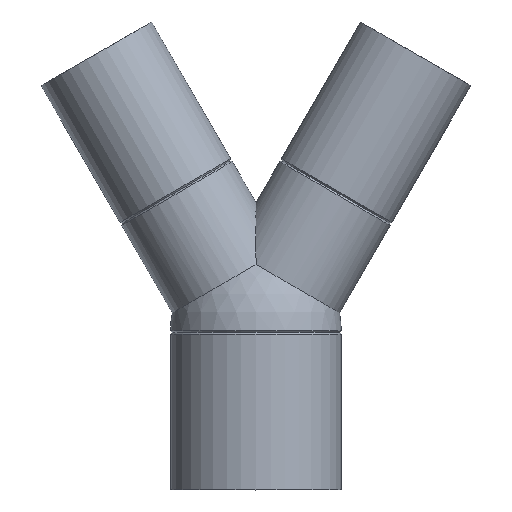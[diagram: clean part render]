
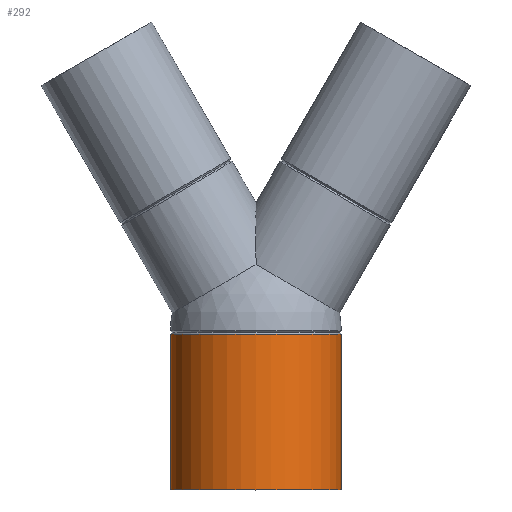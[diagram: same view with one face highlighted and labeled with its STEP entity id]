
A CAD part, top view. The second image highlights one B-rep face of the part: STEP entity #292.
In plain terms, the highlighted cylindrical face has radius 37.5 mm (diameter 75 mm), a full revolution.
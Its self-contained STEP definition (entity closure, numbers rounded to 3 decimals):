
#24=CYLINDRICAL_SURFACE($,#321,37.5);
#36=FACE_BOUND($,#82,.T.);
#59=FACE_OUTER_BOUND($,#81,.T.);
#81=EDGE_LOOP($,(#204));
#82=EDGE_LOOP($,(#205));
#122=CIRCLE($,#320,37.5);
#123=CIRCLE($,#322,37.5);
#147=VERTEX_POINT($,#481);
#148=VERTEX_POINT($,#484);
#172=EDGE_CURVE($,#147,#147,#122,.T.);
#173=EDGE_CURVE($,#148,#148,#123,.T.);
#204=ORIENTED_EDGE($,*,*,#173,.F.);
#205=ORIENTED_EDGE($,*,*,#172,.T.);
#292=ADVANCED_FACE($,(#59,#36),#24,.T.);
#320=AXIS2_PLACEMENT_3D($,#482,#378,#379);
#321=AXIS2_PLACEMENT_3D($,#483,#380,#381);
#322=AXIS2_PLACEMENT_3D($,#485,#382,#383);
#378=DIRECTION('center_axis',(0.,-1.,0.));
#379=DIRECTION('ref_axis',(1.,0.,0.));
#380=DIRECTION('center_axis',(0.,1.,0.));
#381=DIRECTION('ref_axis',(1.,0.,0.));
#382=DIRECTION('center_axis',(0.,-1.,0.));
#383=DIRECTION('ref_axis',(1.,0.,0.));
#481=CARTESIAN_POINT('',(37.5,68.25,0.));
#482=CARTESIAN_POINT('Origin',(0.,68.25,0.));
#483=CARTESIAN_POINT('Origin',(0.,0.,0.));
#484=CARTESIAN_POINT('',(-37.5,0.,0.));
#485=CARTESIAN_POINT('Origin',(0.,0.,0.));
